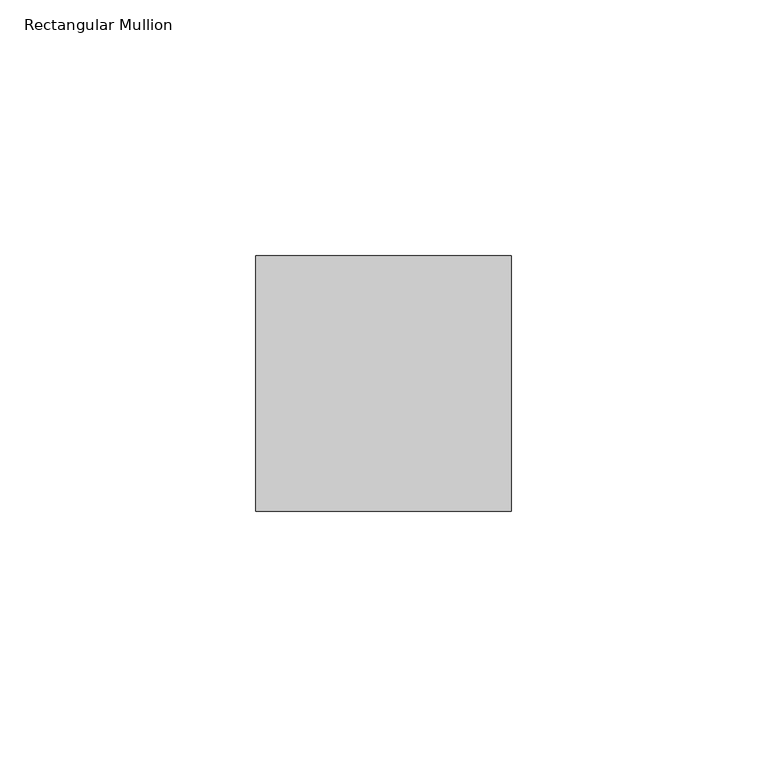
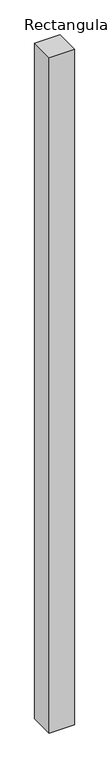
"""IFC4 building model written with IfcOpenShell, lengths in millimetres: member geometry, Rectangular Mullion : Mullion_Curtain Wall_Generic Showcase_50x50mm."""

from ifc_helpers import new_model, si_unit, frame, origin, place, context, project, spatial, polyline, outline, extrude, source, transform, mapped, element, save


def rectangular_mullion_82dcb137(model_context):
    return source(origin(), model_context, "Body", "SweptSolid", [
        extrude(outline(polyline([(25.0, 50.0), (25.0, 0.0), (-25.0, 0.0), (-25.0, 50.0), (25.0, 50.0)])), frame((0.0, 0.0, -1419.45347), z_axis=(0.0, 0.0, 1.0), x_axis=(1.0, 0.0, 0.0)), (0.0, 0.0, 1.0), 1419.45347),
    ])


if __name__ == "__main__":
    model = new_model("IFC4")
    model_context = context("Model", 3, world=origin())
    ifc_project = project(units=[si_unit("LENGTHUNIT", "METRE", prefix="MILLI")], contexts=[model_context])
    site = spatial("IfcSite", under=ifc_project)
    building = spatial("IfcBuilding", under=site)
    placement = place(None, origin())
    rectangular_mullion_shape = rectangular_mullion_82dcb137(model_context)
    element("IfcMember", 1, ObjectType="Rectangular Mullion : Mullion_Curtain Wall_Generic Showcase_50x50mm", at=placement, inside=building, context=model_context, shape_type="MappedRepresentation", body=[
        mapped(rectangular_mullion_shape, transform((0.0, 0.0, 0.0), x_axis=(1.0, 0.0, 0.0), y_axis=(0.0, 1.0, 0.0), z_axis=(0.0, 0.0, 1.0))),
    ])
    save(model, "model.ifc")
